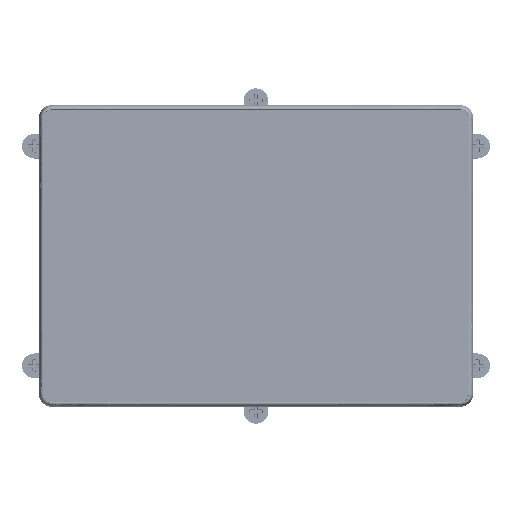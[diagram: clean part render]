
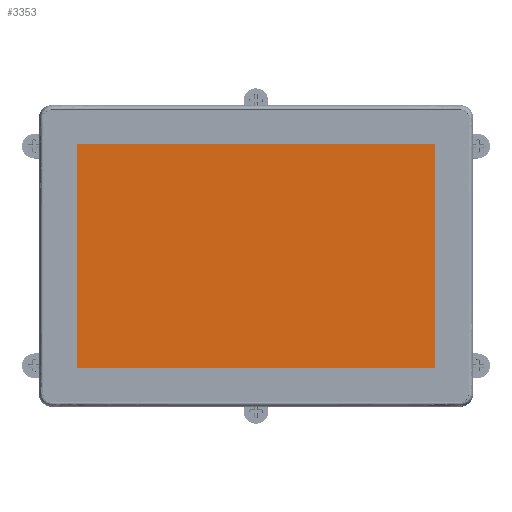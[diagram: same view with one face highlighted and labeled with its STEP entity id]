
A CAD part, top view. The second image highlights one B-rep face of the part: STEP entity #3353.
In plain terms, the highlighted planar face has unit normal (0, 0, 1).
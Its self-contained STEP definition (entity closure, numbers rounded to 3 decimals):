
#713=DIRECTION('',(0.,-1.,0.));
#714=VECTOR('',#713,136.64);
#715=CARTESIAN_POINT('',(-109.,68.32,4.29));
#716=LINE('',#715,#714);
#717=DIRECTION('',(-1.,0.,0.));
#718=VECTOR('',#717,218.);
#719=CARTESIAN_POINT('',(109.,68.32,4.29));
#720=LINE('',#719,#718);
#721=DIRECTION('',(0.,1.,0.));
#722=VECTOR('',#721,136.64);
#723=CARTESIAN_POINT('',(109.,-68.32,4.29));
#724=LINE('',#723,#722);
#725=DIRECTION('',(1.,0.,0.));
#726=VECTOR('',#725,218.);
#727=CARTESIAN_POINT('',(-109.,-68.32,4.29));
#728=LINE('',#727,#726);
#2206=CARTESIAN_POINT('',(-109.,68.32,4.29));
#2208=VERTEX_POINT('',#2206);
#2211=CARTESIAN_POINT('',(-109.,-68.32,4.29));
#2213=VERTEX_POINT('',#2211);
#2214=CARTESIAN_POINT('',(109.,68.32,4.29));
#2216=VERTEX_POINT('',#2214);
#2218=CARTESIAN_POINT('',(109.,-68.32,4.29));
#2220=VERTEX_POINT('',#2218);
#3342=CARTESIAN_POINT('',(0.,0.,4.29));
#3343=DIRECTION('',(0.,0.,1.));
#3344=DIRECTION('',(1.,0.,0.));
#3345=AXIS2_PLACEMENT_3D('',#3342,#3343,#3344);
#3346=PLANE('',#3345);
#3347=ORIENTED_EDGE('',*,*,#3265,.F.);
#3348=ORIENTED_EDGE('',*,*,#3289,.F.);
#3349=ORIENTED_EDGE('',*,*,#3308,.F.);
#3350=ORIENTED_EDGE('',*,*,#3328,.F.);
#3351=EDGE_LOOP('',(#3347,#3348,#3349,#3350));
#3352=FACE_OUTER_BOUND('',#3351,.F.);
#3353=ADVANCED_FACE('',(#3352),#3346,.T.);
#3265=EDGE_CURVE('',#2208,#2213,#716,.T.);
#3289=EDGE_CURVE('',#2216,#2208,#720,.T.);
#3308=EDGE_CURVE('',#2220,#2216,#724,.T.);
#3328=EDGE_CURVE('',#2213,#2220,#728,.T.);
